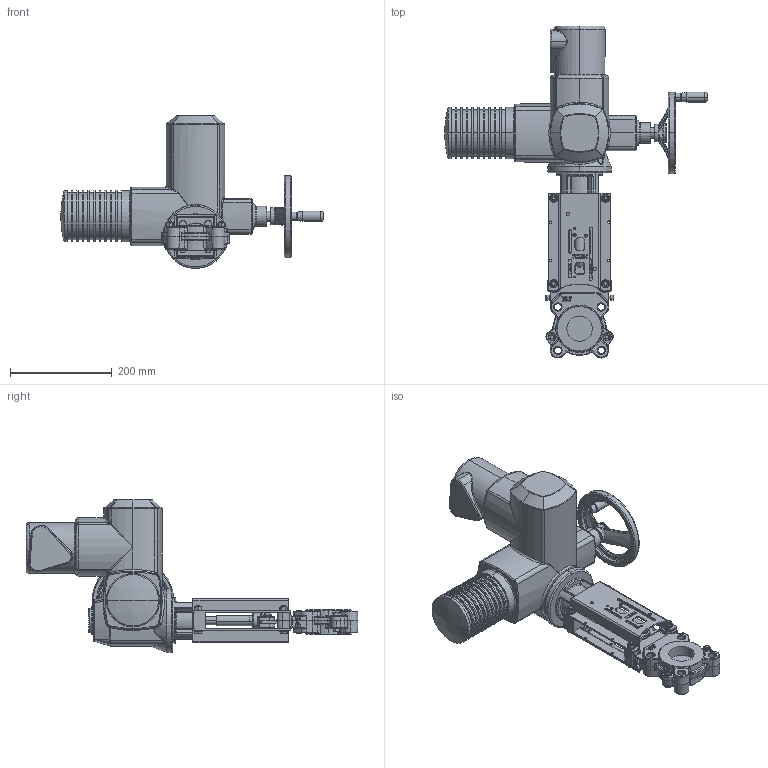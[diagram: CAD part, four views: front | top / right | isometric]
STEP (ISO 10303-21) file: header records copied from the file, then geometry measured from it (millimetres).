
FILE_DESCRIPTION (( 'STEP AP214' ), '1' );
FILE_NAME ('VSE DN 0050.STEP', '2015-09-23T11:18:14', ( 'admin' ), ( 'Hewlett-Packard Company' ), 'SwSTEP 2.0', 'SolidWorks 2013', '' );
FILE_SCHEMA (( 'AUTOMOTIVE_DESIGN' ));
Length unit declared in the file: millimetre
Products named in the file (1): VSE DN 0050
Bounding box: 516 x 652.11 x 300.5 mm (x, y, z)
Volume: 8381007.9 mm3; surface area: 672019.8 mm2
Topology: 43 solids, 45 shells, 2485 faces, 5981 edges, 3563 vertices
Faces by surface type: plane 817, cylinder 741, bspline 346, cone 344, torus 205, sphere 32
Entity records: 115970 total; most frequent: CARTESIAN_POINT 32343, ORIENTED_EDGE 11778, DIRECTION 11550, EDGE_CURVE 5889, AXIS2_PLACEMENT_3D 4602, VERTEX_POINT 3563, EDGE_LOOP 2734, UNCERTAINTY_MEASURE_WITH_UNIT 2530
